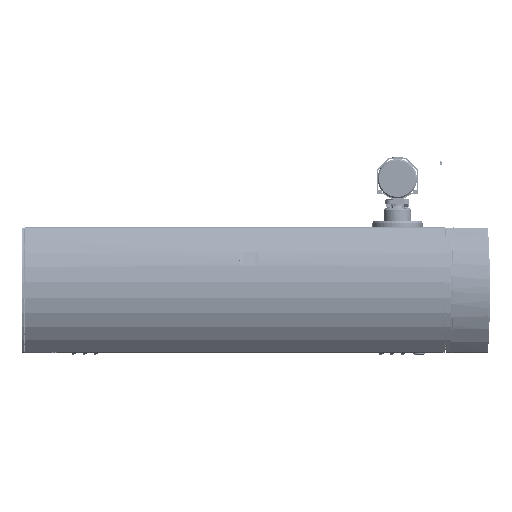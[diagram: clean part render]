
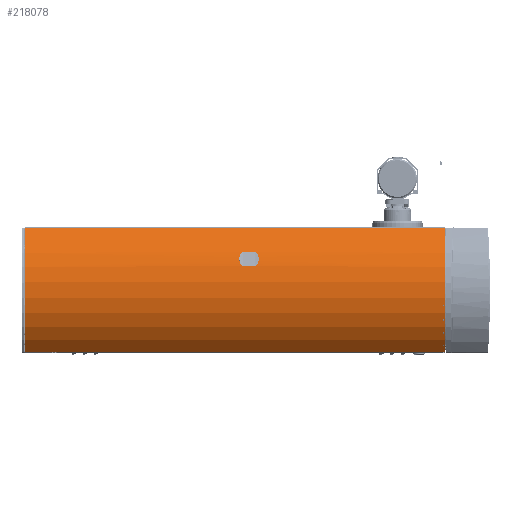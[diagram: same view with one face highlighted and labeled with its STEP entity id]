
A CAD part, left-side view. The second image highlights one B-rep face of the part: STEP entity #218078.
In plain terms, the highlighted cylindrical face has radius 201 mm (diameter 402 mm), a partial arc.
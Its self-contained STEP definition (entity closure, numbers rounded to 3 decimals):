
#625=B_SPLINE_CURVE_WITH_KNOTS('',3,(#371719,#371720,#371721,#371722,#371723,
#371724,#371725,#371726,#371727,#371728),.UNSPECIFIED.,.F.,.F.,(4,1,1,1,
1,1,1,4),(0.,0.25,0.375,0.5,0.625,0.75,0.875,1.),.UNSPECIFIED.);
#627=B_SPLINE_CURVE_WITH_KNOTS('',3,(#371820,#371821,#371822,#371823,#371824,
#371825,#371826,#371827),.UNSPECIFIED.,.F.,.F.,(4,1,1,1,1,4),(0.,0.125,
0.25,0.375,0.5,1.),.UNSPECIFIED.);
#630=B_SPLINE_CURVE_WITH_KNOTS('',3,(#371922,#371923,#371924,#371925,#371926,
#371927,#371928,#371929,#371930),.UNSPECIFIED.,.F.,.F.,(4,1,1,1,1,1,4),
(0.,0.125,0.25,0.375,0.5,0.75,1.),.UNSPECIFIED.);
#633=B_SPLINE_CURVE_WITH_KNOTS('',3,(#372102,#372103,#372104,#372105,#372106,
#372107,#372108,#372109,#372110),.UNSPECIFIED.,.F.,.F.,(4,1,1,1,1,1,4),
(0.,0.25,0.5,0.625,0.75,0.875,1.),.UNSPECIFIED.);
#16123=LINE('',#371738,#41635);
#16128=LINE('',#371948,#41640);
#16134=LINE('',#372140,#41646);
#16135=LINE('',#372146,#41647);
#41635=VECTOR('',#310337,1000.);
#41640=VECTOR('',#310344,1000.);
#41646=VECTOR('',#310374,1000.);
#41647=VECTOR('',#310381,1000.);
#70790=ORIENTED_EDGE('',*,*,#130804,.F.);
#70791=ORIENTED_EDGE('',*,*,#130803,.F.);
#70792=ORIENTED_EDGE('',*,*,#130805,.T.);
#70793=ORIENTED_EDGE('',*,*,#130806,.T.);
#70794=ORIENTED_EDGE('',*,*,#130779,.F.);
#70795=ORIENTED_EDGE('',*,*,#130789,.F.);
#70796=ORIENTED_EDGE('',*,*,#130787,.F.);
#70797=ORIENTED_EDGE('',*,*,#130782,.F.);
#70798=ORIENTED_EDGE('',*,*,#130774,.F.);
#70799=ORIENTED_EDGE('',*,*,#130777,.T.);
#130774=EDGE_CURVE('',#161352,#161353,#625,.F.);
#130777=EDGE_CURVE('',#161352,#161355,#16123,.T.);
#130779=EDGE_CURVE('',#161356,#161355,#627,.F.);
#130782=EDGE_CURVE('',#161353,#161358,#630,.F.);
#130787=EDGE_CURVE('',#161358,#161361,#16128,.T.);
#130789=EDGE_CURVE('',#161361,#161356,#633,.F.);
#130803=EDGE_CURVE('',#161373,#161371,#16134,.T.);
#130804=EDGE_CURVE('',#161371,#161374,#180558,.T.);
#130805=EDGE_CURVE('',#161373,#161375,#180559,.T.);
#130806=EDGE_CURVE('',#161375,#161374,#16135,.T.);
#161352=VERTEX_POINT('',#371718);
#161353=VERTEX_POINT('',#371729);
#161355=VERTEX_POINT('',#371737);
#161356=VERTEX_POINT('',#371828);
#161358=VERTEX_POINT('',#371931);
#161361=VERTEX_POINT('',#371946);
#161371=VERTEX_POINT('',#372135);
#161373=VERTEX_POINT('',#372139);
#161374=VERTEX_POINT('',#372143);
#161375=VERTEX_POINT('',#372145);
#180558=CIRCLE('',#288427,201.);
#180559=CIRCLE('',#288428,201.);
#186396=EDGE_LOOP('',(#70790,#70791,#70792,#70793));
#186397=EDGE_LOOP('',(#70794,#70795,#70796,#70797,#70798,#70799));
#201530=FACE_BOUND('',#186396,.T.);
#201531=FACE_BOUND('',#186397,.T.);
#215202=CYLINDRICAL_SURFACE('',#288426,201.);
#218078=ADVANCED_FACE('',(#201530,#201531),#215202,.T.);
#288426=AXIS2_PLACEMENT_3D('',#372141,#310375,#310376);
#288427=AXIS2_PLACEMENT_3D('',#372142,#310377,#310378);
#288428=AXIS2_PLACEMENT_3D('',#372144,#310379,#310380);
#310337=DIRECTION('',(0.,0.,-1.));
#310344=DIRECTION('',(0.,0.,-1.));
#310374=DIRECTION('',(0.,0.,-1.));
#310375=DIRECTION('',(0.,0.,-1.));
#310376=DIRECTION('',(-1.,0.,0.));
#310377=DIRECTION('',(0.,0.,-1.));
#310378=DIRECTION('',(-1.,0.,0.));
#310379=DIRECTION('',(0.,0.,-1.));
#310380=DIRECTION('',(-1.,0.,0.));
#310381=DIRECTION('',(0.,0.,-1.));
#371718=CARTESIAN_POINT('',(-5.353,54.947,-434.174));
#371719=CARTESIAN_POINT('',(-0.104,70.871,-426.501));
#371720=CARTESIAN_POINT('',(-0.669,69.369,-426.488));
#371721=CARTESIAN_POINT('',(-1.483,67.125,-426.721));
#371722=CARTESIAN_POINT('',(-2.485,64.206,-427.536));
#371723=CARTESIAN_POINT('',(-3.174,62.121,-428.384));
#371724=CARTESIAN_POINT('',(-3.826,60.075,-429.501));
#371725=CARTESIAN_POINT('',(-4.397,58.218,-430.813));
#371726=CARTESIAN_POINT('',(-4.921,56.455,-432.392));
#371727=CARTESIAN_POINT('',(-5.216,55.429,-433.557));
#371728=CARTESIAN_POINT('',(-5.353,54.947,-434.174));
#371729=CARTESIAN_POINT('',(-0.104,70.871,-426.501));
#371737=CARTESIAN_POINT('',(-5.353,54.947,-463.826));
#371738=CARTESIAN_POINT('',(-5.353,54.947,0.));
#371820=CARTESIAN_POINT('',(-5.353,54.947,-463.826));
#371821=CARTESIAN_POINT('',(-5.216,55.43,-464.444));
#371822=CARTESIAN_POINT('',(-4.92,56.458,-465.611));
#371823=CARTESIAN_POINT('',(-4.396,58.222,-467.19));
#371824=CARTESIAN_POINT('',(-3.823,60.086,-468.507));
#371825=CARTESIAN_POINT('',(-2.532,64.139,-470.718));
#371826=CARTESIAN_POINT('',(-1.234,67.87,-471.526));
#371827=CARTESIAN_POINT('',(-0.103,70.872,-471.499));
#371828=CARTESIAN_POINT('',(-0.103,70.872,-471.499));
#371922=CARTESIAN_POINT('',(6.73,86.879,-434.174));
#371923=CARTESIAN_POINT('',(6.499,86.396,-433.56));
#371924=CARTESIAN_POINT('',(6.012,85.371,-432.398));
#371925=CARTESIAN_POINT('',(5.195,83.608,-430.826));
#371926=CARTESIAN_POINT('',(4.359,81.755,-429.52));
#371927=CARTESIAN_POINT('',(3.175,79.055,-428.044));
#371928=CARTESIAN_POINT('',(1.673,75.471,-426.814));
#371929=CARTESIAN_POINT('',(0.475,72.407,-426.487));
#371930=CARTESIAN_POINT('',(-0.104,70.871,-426.501));
#371931=CARTESIAN_POINT('',(6.73,86.879,-434.174));
#371946=CARTESIAN_POINT('',(6.73,86.879,-463.826));
#371948=CARTESIAN_POINT('',(6.73,86.879,0.));
#372102=CARTESIAN_POINT('',(-0.103,70.872,-471.499));
#372103=CARTESIAN_POINT('',(0.475,72.408,-471.513));
#372104=CARTESIAN_POINT('',(1.672,75.469,-471.186));
#372105=CARTESIAN_POINT('',(3.175,79.056,-469.955));
#372106=CARTESIAN_POINT('',(4.359,81.755,-468.48));
#372107=CARTESIAN_POINT('',(5.196,83.61,-467.172));
#372108=CARTESIAN_POINT('',(6.013,85.372,-465.6));
#372109=CARTESIAN_POINT('',(6.499,86.396,-464.44));
#372110=CARTESIAN_POINT('',(6.73,86.879,-463.826));
#372135=CARTESIAN_POINT('',(45.879,-142.103,-963.));
#372139=CARTESIAN_POINT('',(45.879,-142.103,0.));
#372140=CARTESIAN_POINT('',(45.879,-142.103,0.));
#372141=CARTESIAN_POINT('',(188.,0.032,0.));
#372142=CARTESIAN_POINT('',(188.,0.032,-963.));
#372143=CARTESIAN_POINT('',(45.879,142.168,-963.));
#372144=CARTESIAN_POINT('',(188.,0.032,0.));
#372145=CARTESIAN_POINT('',(45.879,142.168,0.));
#372146=CARTESIAN_POINT('',(45.879,142.168,0.));
